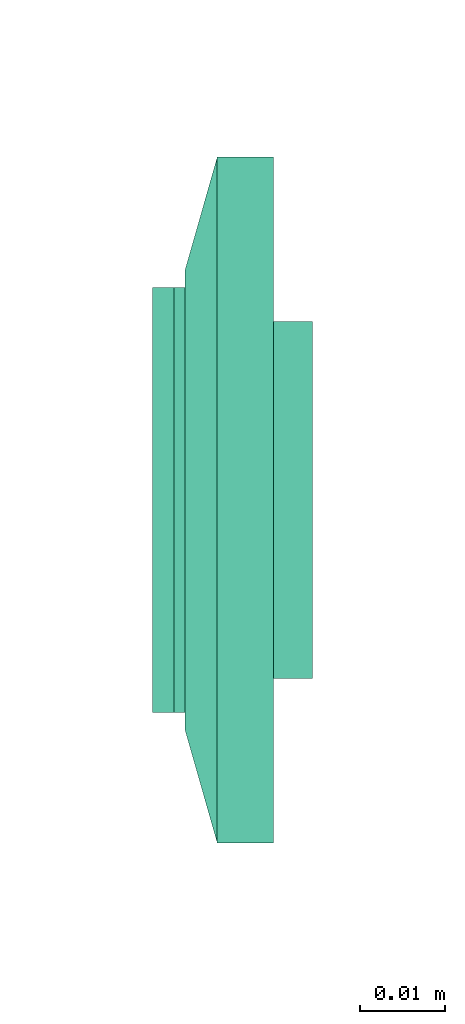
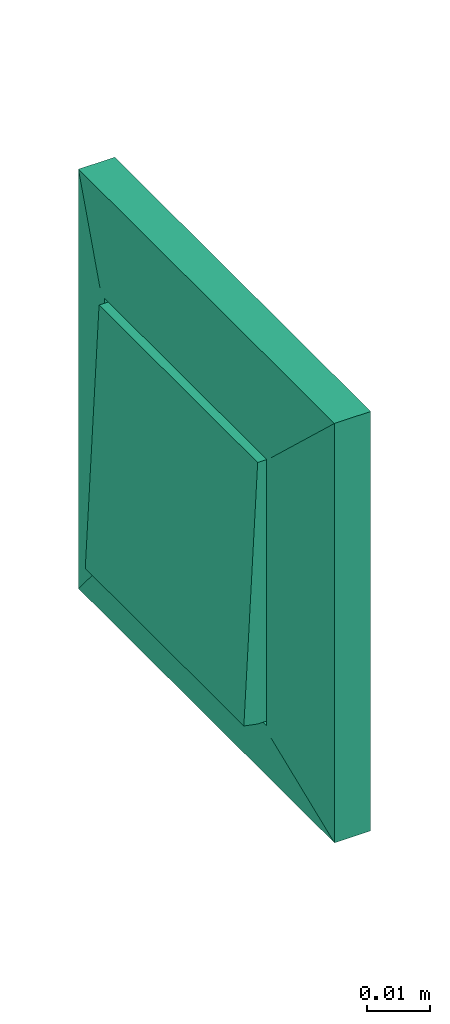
# One storey, part 103 of 153: 1 flow terminal.
"""IFC2X3 building model written with IfcOpenShell, lengths in metres."""

from ifc_helpers import new_model, entity, si_unit, converted_unit, derived_unit, direction, frame, origin, place, context, subcontext, project, spatial, faceted_brep, source, transform, mapped, type_object, type_shapes, element, save


model = new_model("IFC2X3")

# Units and contexts
model_context = context("Model", 3, precision=1e-05, world=origin(), true_north=direction((6.12303176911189e-17, 1.0)))
body_context = subcontext(model_context, "Body", "Model", "MODEL_VIEW")
ifc_project = project(units=[si_unit("LENGTHUNIT", "METRE"), si_unit("AREAUNIT", "SQUARE_METRE"), si_unit("VOLUMEUNIT", "CUBIC_METRE"), converted_unit("PLANEANGLEUNIT", "DEGREE", entity("IfcRatioMeasure", 0.0174532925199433), si_unit("PLANEANGLEUNIT", "RADIAN"), dimensions=[0, 0, 0, 0, 0, 0, 0]), si_unit("MASSUNIT", "GRAM", prefix="KILO"), derived_unit("MASSDENSITYUNIT", [(si_unit("MASSUNIT", "GRAM", prefix="KILO"), 1), (si_unit("LENGTHUNIT", "METRE"), -3)]), si_unit("TIMEUNIT", "SECOND"), si_unit("FREQUENCYUNIT", "HERTZ"), si_unit("THERMODYNAMICTEMPERATUREUNIT", "DEGREE_CELSIUS"), derived_unit("THERMALTRANSMITTANCEUNIT", [(si_unit("MASSUNIT", "GRAM", prefix="KILO"), 1), (si_unit("THERMODYNAMICTEMPERATUREUNIT", "KELVIN"), -1), (si_unit("TIMEUNIT", "SECOND"), -3)]), derived_unit("VOLUMETRICFLOWRATEUNIT", [(si_unit("LENGTHUNIT", "METRE"), 3), (si_unit("TIMEUNIT", "SECOND"), -1)]), si_unit("ELECTRICCURRENTUNIT", "AMPERE"), si_unit("ELECTRICVOLTAGEUNIT", "VOLT"), si_unit("POWERUNIT", "WATT"), si_unit("FORCEUNIT", "NEWTON"), si_unit("ILLUMINANCEUNIT", "LUX"), si_unit("LUMINOUSFLUXUNIT", "LUMEN"), si_unit("LUMINOUSINTENSITYUNIT", "CANDELA"), derived_unit("USERDEFINED", [(si_unit("MASSUNIT", "GRAM", prefix="KILO"), -1), (si_unit("LENGTHUNIT", "METRE"), -2), (si_unit("TIMEUNIT", "SECOND"), 3), (si_unit("LUMINOUSFLUXUNIT", "LUMEN"), 1)]), derived_unit("LINEARVELOCITYUNIT", [(si_unit("LENGTHUNIT", "METRE"), 1), (si_unit("TIMEUNIT", "SECOND"), -1)]), si_unit("PRESSUREUNIT", "PASCAL"), derived_unit("USERDEFINED", [(si_unit("LENGTHUNIT", "METRE"), -2), (si_unit("MASSUNIT", "GRAM", prefix="KILO"), 1), (si_unit("TIMEUNIT", "SECOND"), -2)])], contexts=[model_context])

# Site, building, storey
site_placement = place(None, origin())
site = spatial("IfcSite", under=ifc_project, at=site_placement, Name="Default", CompositionType="ELEMENT")
building_placement = place(site_placement, origin())
building = spatial("IfcBuilding", under=site, at=building_placement, CompositionType="ELEMENT")
storey_placement = place(building_placement, frame((0.0, 0.0, -4.62)))
storey = spatial("IfcBuildingStorey", under=building, at=storey_placement, Name="S02", CompositionType="ELEMENT", Elevation=-4.62)

# Flow terminal
light_fixture_type = type_object("IfcLightFixtureType", Name="VV IP21", PredefinedType="NOTDEFINED")
shared_shape = source(origin(), body_context, "Body", "Brep", [
    faceted_brep([(0.0, 0.0209999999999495, -0.00460000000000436), (0.00543519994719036, 0.02028444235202, -0.00460000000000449), (0.0105000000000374, 0.0181865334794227, -0.00460000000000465), (0.0148492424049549, 0.014849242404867, -0.00460000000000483), (0.0181865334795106, 0.0104999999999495, -0.00460000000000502), (0.0202844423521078, 0.00543519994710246, -0.00460000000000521), (0.0210000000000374, 0.0, -0.00460000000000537), (0.0202844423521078, -0.00543519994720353, -0.00460000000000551), (0.0181865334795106, -0.0105000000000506, -0.0046000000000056), (0.0148492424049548, -0.0148492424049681, -0.00460000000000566), (0.0105000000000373, -0.0181865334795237, -0.00460000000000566), (0.00543519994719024, -0.0202844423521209, -0.00460000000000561), (0.0, -0.0210000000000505, -0.00460000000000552), (-0.00543519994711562, -0.0202844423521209, -0.00460000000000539), (-0.0104999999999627, -0.0181865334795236, -0.00460000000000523), (-0.0148492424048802, -0.0148492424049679, -0.00460000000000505), (-0.0181865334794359, -0.0105000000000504, -0.00460000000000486), (-0.0202844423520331, -0.00543519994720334, -0.00460000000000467), (-0.0209999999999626, 0.0, -0.00460000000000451), (-0.020284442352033, 0.00543519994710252, -0.00460000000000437), (-0.0181865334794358, 0.0104999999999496, -0.00460000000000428), (-0.0148492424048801, 0.0148492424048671, -0.00460000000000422), (-0.0104999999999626, 0.0181865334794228, -0.00460000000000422), (-0.00543519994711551, 0.02028444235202, -0.00460000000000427), (-0.020284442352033, -0.00543519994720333, 0.0), (-0.0209999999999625, 0.0, 0.0), (-0.0181865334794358, -0.0105000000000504, 0.0), (-0.0104999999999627, -0.0181865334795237, 0.0), (-0.0148492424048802, -0.0148492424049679, 0.0), (-0.00543519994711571, -0.020284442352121, 0.0), (0.0, -0.0210000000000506, 0.0), (0.00543519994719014, -0.0202844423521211, 0.0), (0.0105000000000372, -0.018186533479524, 0.0), (0.0181865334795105, -0.0105000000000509, 0.0), (0.0148492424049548, -0.0148492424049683, 0.0), (0.0202844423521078, -0.00543519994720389, 0.0), (0.0210000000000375, 0.0, 0.0), (0.0202844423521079, 0.00543519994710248, 0.0), (0.0181865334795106, 0.0104999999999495, 0.0), (0.0105000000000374, 0.0181865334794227, 0.0), (0.0148492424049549, 0.014849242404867, 0.0), (0.00543519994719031, 0.0202844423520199, 0.0), (0.0, 0.0209999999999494, 0.0), (-0.00543519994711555, 0.0202844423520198, 0.0), (-0.0104999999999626, 0.0181865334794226, 0.0), (-0.0181865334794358, 0.0104999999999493, 0.0), (-0.0148492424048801, 0.0148492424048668, 0.0), (-0.020284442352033, 0.00543519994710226, 0.0)], [[[0, 1, 2, 3, 4, 5, 6, 7, 8, 9, 10, 11, 12, 13, 14, 15, 16, 17, 18, 19, 20, 21, 22, 23]], [[17, 24, 25, 18]], [[16, 26, 24, 17]], [[27, 28, 15, 14]], [[16, 15, 28, 26]], [[29, 27, 14, 13]], [[30, 29, 13, 12]], [[11, 31, 30, 12]], [[10, 32, 31, 11]], [[33, 34, 9, 8]], [[10, 9, 34, 32]], [[35, 33, 8, 7]], [[36, 35, 7, 6]], [[5, 37, 36, 6]], [[4, 38, 37, 5]], [[39, 40, 3, 2]], [[4, 3, 40, 38]], [[41, 39, 2, 1]], [[42, 41, 1, 0]], [[23, 43, 42, 0]], [[22, 44, 43, 23]], [[45, 46, 21, 20]], [[22, 21, 46, 44]], [[47, 45, 20, 19]], [[25, 47, 19, 18]], [[25, 24, 26, 28, 27, 29, 30, 31, 32, 34, 33, 35, 36, 37, 38, 40, 39, 41, 42, 43, 44, 46, 45, 47]]]),
    faceted_brep([(0.0270000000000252, 0.026999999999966, 0.0103999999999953), (-0.0269999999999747, 0.026999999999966, 0.0103999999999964), (-0.0269999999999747, -0.0270000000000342, 0.0103999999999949), (0.0270000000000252, -0.0270000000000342, 0.0103999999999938), (-0.0254999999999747, 0.0258096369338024, 0.0103999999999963), (0.0255000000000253, 0.0258096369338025, 0.0103999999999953), (0.0255000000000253, -0.0255000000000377, 0.0103999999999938), (-0.0254999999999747, -0.0255000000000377, 0.0103999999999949), (0.0270000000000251, 0.0269999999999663, 0.00199999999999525), (0.0270000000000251, -0.0270000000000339, 0.00199999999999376), (-0.0269999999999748, -0.0270000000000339, 0.00199999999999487), (-0.0269999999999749, 0.0269999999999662, 0.00199999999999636), (0.0255000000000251, 0.0258096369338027, 0.00199999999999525), (-0.0254999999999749, 0.0258096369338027, 0.0019999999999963), (-0.0254999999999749, -0.0255000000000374, 0.00199999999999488), (0.0255000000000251, -0.0255000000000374, 0.00199999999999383)], [[[0, 1, 2, 3], [4, 5, 6, 7]], [[8, 9, 10, 11], [12, 13, 14, 15]], [[1, 0, 8, 11]], [[2, 1, 11, 10]], [[3, 2, 10, 9]], [[0, 3, 9, 8]], [[12, 5, 4, 13]], [[13, 4, 7, 14]], [[14, 7, 6, 15]], [[5, 12, 15, 6]]]),
    faceted_brep([(0.0250000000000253, 0.0253096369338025, 0.00659999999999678), (0.0250000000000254, 0.0253096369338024, 0.0117095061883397), (0.0250000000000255, -0.0245000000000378, 0.0142232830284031), (0.0250000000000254, -0.0250000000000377, 0.0117095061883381), (0.0250000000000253, -0.0250000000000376, 0.00659999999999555), (-0.0249999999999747, 0.0253096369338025, 0.00659999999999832), (-0.0249999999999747, -0.0250000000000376, 0.00659999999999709), (-0.0249999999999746, -0.0250000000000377, 0.0117095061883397), (-0.0249999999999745, -0.0245000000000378, 0.0142232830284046), (-0.0249999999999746, 0.0253096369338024, 0.0117095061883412)], [[[0, 1, 2, 3, 4]], [[5, 6, 7, 8, 9]], [[1, 0, 5, 9]], [[2, 1, 9, 8]], [[3, 2, 8, 7]], [[4, 3, 7, 6]], [[0, 4, 6, 5]]]),
    faceted_brep([(0.027000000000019, 0.0269999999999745, 0.00659999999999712), (-0.0269999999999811, 0.0269999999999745, 0.00659999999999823), (-0.026999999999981, -0.0270000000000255, 0.00659999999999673), (0.027000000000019, -0.0270000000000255, 0.00659999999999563), (0.040350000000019, 0.0403499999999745, 0.00659999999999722), (0.040350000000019, -0.0403500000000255, 0.00659999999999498), (-0.0403499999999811, -0.0403500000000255, 0.00659999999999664), (-0.0403499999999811, 0.0403499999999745, 0.00659999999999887), (-0.026999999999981, 0.0269999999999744, 0.0103999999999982), (0.027000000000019, 0.0269999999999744, 0.0103999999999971), (-0.026999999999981, -0.0270000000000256, 0.0103999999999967), (0.027000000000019, -0.0270000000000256, 0.0103999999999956)], [[[0, 1, 2, 3], [4, 5, 6, 7]], [[4, 7, 8, 9]], [[7, 6, 10, 8]], [[6, 5, 11, 10]], [[5, 4, 9, 11]], [[0, 9, 8, 1]], [[1, 8, 10, 2]], [[2, 10, 11, 3]], [[9, 0, 3, 11]]], outer=[[False, True], [True], [True], [True], [True], [True], [True], [True], [True]]),
    faceted_brep([(0.040350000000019, 0.0403499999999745, 0.00659999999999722), (-0.0403499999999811, 0.0403499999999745, 0.00659999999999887), (-0.0403499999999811, -0.0403500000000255, 0.00659999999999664), (0.040350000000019, -0.0403500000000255, 0.00659999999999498), (-0.0269999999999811, 0.0269999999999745, 0.00659999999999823), (0.0270000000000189, 0.0269999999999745, 0.00659999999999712), (0.0270000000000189, -0.0270000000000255, 0.00659999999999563), (-0.0269999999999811, -0.0270000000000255, 0.00659999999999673), (0.0403500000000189, 0.0403499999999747, 0.0), (0.0403500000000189, -0.0403500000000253, 0.0), (-0.0403499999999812, -0.0403500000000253, 0.0), (-0.0403499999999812, 0.0403499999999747, 0.0), (0.0270000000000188, 0.0269999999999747, 0.0), (-0.0269999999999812, 0.0269999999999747, 0.0), (-0.0269999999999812, -0.0270000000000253, 0.0), (0.0270000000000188, -0.0270000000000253, 0.0)], [[[0, 1, 2, 3], [4, 5, 6, 7]], [[8, 9, 10, 11], [12, 13, 14, 15]], [[1, 0, 8, 11]], [[2, 1, 11, 10]], [[3, 2, 10, 9]], [[0, 3, 9, 8]], [[12, 5, 4, 13]], [[13, 4, 7, 14]], [[14, 7, 6, 15]], [[5, 12, 15, 6]]]),
])
type_shapes(light_fixture_type, [shared_shape])
flow_terminal_placement = place(storey_placement, frame((49.454743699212, -186.395488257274, 1.05000000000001), z_axis=(-1.0, 0.0, 0.0), x_axis=(0.0, -1.0, 0.0)))
element("IfcFlowTerminal", 1, at=flow_terminal_placement, inside=storey, type_object=light_fixture_type, Name="INT_Inter VV:VV IP21", ObjectType="INT_Inter VV:VV IP21", context=body_context, shape_type="MappedRepresentation", body=[
    mapped(shared_shape, transform((0.0, 0.0, 0.0), scale=1.0)),
])

save(model, "model.ifc")
